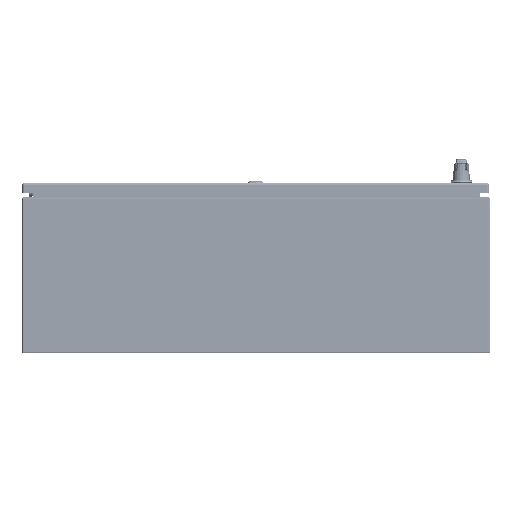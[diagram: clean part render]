
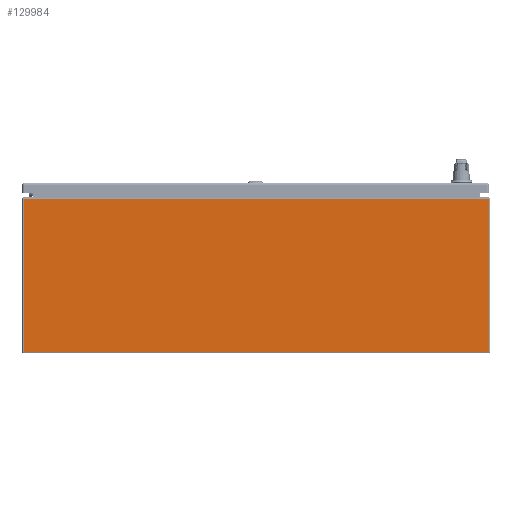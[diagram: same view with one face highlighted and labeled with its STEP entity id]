
A CAD part, front view. The second image highlights one B-rep face of the part: STEP entity #129984.
In plain terms, the highlighted planar face has unit normal (0, -1, 0).
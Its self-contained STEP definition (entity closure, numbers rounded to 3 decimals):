
#11191=LINE('',#183753,#20023);
#11194=LINE('',#183775,#20026);
#11195=LINE('',#183777,#20027);
#11196=LINE('',#183778,#20028);
#20023=VECTOR('',#151316,0.394);
#20026=VECTOR('',#151347,0.394);
#20027=VECTOR('',#151348,0.394);
#20028=VECTOR('',#151349,0.394);
#30779=FACE_OUTER_BOUND('',#38885,.T.);
#38885=EDGE_LOOP('',(#86524,#86525,#86526,#86527));
#52900=VERTEX_POINT('',#183742);
#52903=VERTEX_POINT('',#183752);
#52908=VERTEX_POINT('',#183774);
#52909=VERTEX_POINT('',#183776);
#65833=EDGE_CURVE('',#52900,#52903,#11191,.T.);
#65844=EDGE_CURVE('',#52908,#52900,#11194,.T.);
#65845=EDGE_CURVE('',#52908,#52909,#11195,.T.);
#65846=EDGE_CURVE('',#52903,#52909,#11196,.T.);
#86524=ORIENTED_EDGE('',*,*,#65833,.F.);
#86525=ORIENTED_EDGE('',*,*,#65844,.F.);
#86526=ORIENTED_EDGE('',*,*,#65845,.T.);
#86527=ORIENTED_EDGE('',*,*,#65846,.F.);
#127174=PLANE('',#139446);
#129984=ADVANCED_FACE('',(#30779),#127174,.T.);
#139446=AXIS2_PLACEMENT_3D('',#183773,#151345,#151346);
#151316=DIRECTION('',(1.,0.,0.));
#151345=DIRECTION('center_axis',(0.,-1.,0.));
#151346=DIRECTION('ref_axis',(-1.,0.,0.));
#151347=DIRECTION('',(0.,0.,1.));
#151348=DIRECTION('',(1.,0.,0.));
#151349=DIRECTION('',(0.,0.,-1.));
#183742=CARTESIAN_POINT('',(-17.901,-24.,11.901));
#183752=CARTESIAN_POINT('',(17.901,-24.,11.901));
#183753=CARTESIAN_POINT('',(0.025,-24.,11.901));
#183773=CARTESIAN_POINT('Origin',(18.,-24.,12.));
#183774=CARTESIAN_POINT('',(-17.901,-24.,0.099));
#183775=CARTESIAN_POINT('',(-17.901,-24.,6.));
#183776=CARTESIAN_POINT('',(17.901,-24.,0.099));
#183777=CARTESIAN_POINT('',(-8.951,-24.,0.099));
#183778=CARTESIAN_POINT('',(17.901,-24.,6.));
